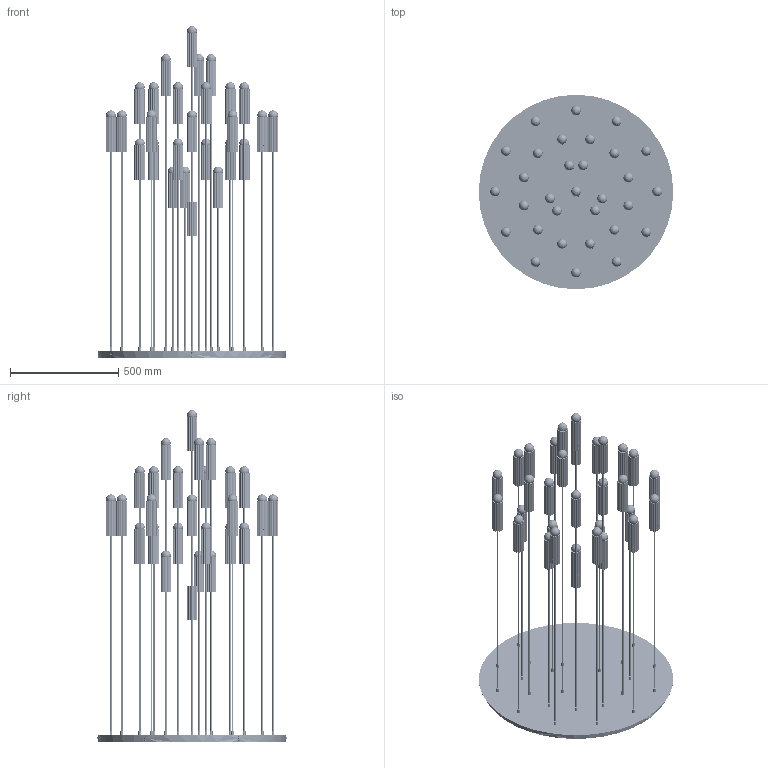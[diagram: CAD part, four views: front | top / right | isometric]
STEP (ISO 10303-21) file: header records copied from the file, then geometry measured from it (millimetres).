
FILE_DESCRIPTION(/* description */ (''),/* implementation_level */ '2;1');
FILE_NAME(/* name */ 'B730 Westa Cluster 32 CE v0 - katalog.stp',/* time_stamp */ '2025-05-26T13:07:08+02:00',/* author */ ('Lukasz'),/* organization */ (''),/* preprocessor_version */ 'ST-DEVELOPER v20.1',/* originating_system */ 'Autodesk Inventor 2026',/* authorisation */ '');
FILE_SCHEMA (('AUTOMOTIVE_DESIGN { 1 0 10303 214 3 1 1 }'));
Products named in the file (1): B730 Westa Cluster 32 CE v0 - katalog
Bounding box: 900 x 900 x 1535.31 mm (x, y, z)
Volume: 16201087.1 mm3; surface area: 5990688.3 mm2
Topology: 246 solids, 246 shells, 6292 faces, 15261 edges, 9549 vertices
Faces by surface type: plane 3452, cylinder 2369, cone 187, torus 185, bspline 62, sphere 37
Full cylindrical faces by diameter (mm): 3 x12, 5.5 x12, 6 x6, 7 x31, 9 x12, 11 x6, 12 x31, 13 x63, 17 x31, 36.5 x3, 41.8 x3, 900 x1
Entity records: 193894 total; most frequent: CARTESIAN_POINT 36287, DIRECTION 33339, ORIENTED_EDGE 30450, EDGE_CURVE 15225, AXIS2_PLACEMENT_3D 12041, VERTEX_POINT 9539, LINE 9257, VECTOR 9257
